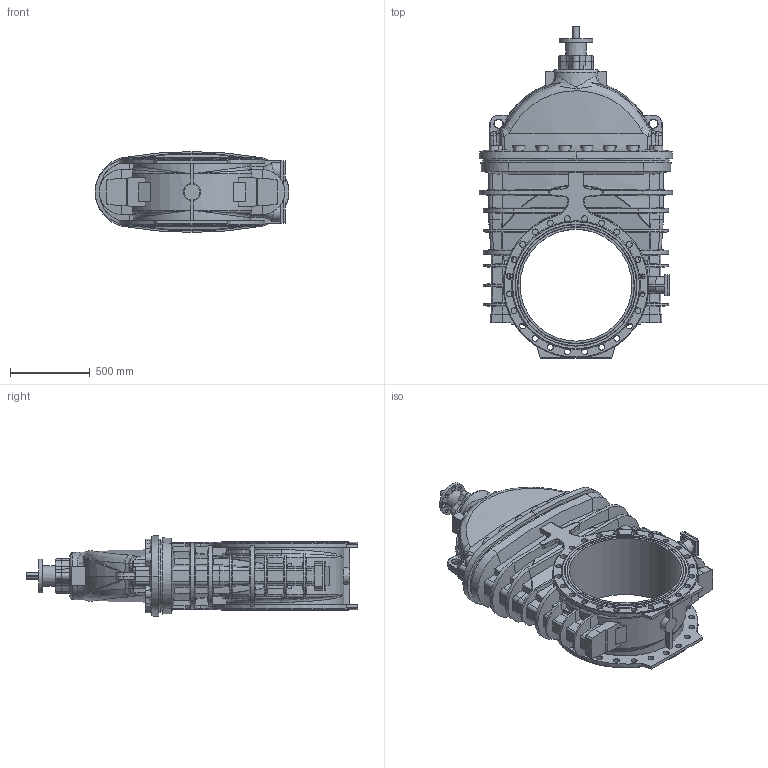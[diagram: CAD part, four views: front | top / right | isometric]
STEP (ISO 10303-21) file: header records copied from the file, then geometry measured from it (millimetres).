
FILE_DESCRIPTION (( 'STEP AP203' ), '1' );
FILE_NAME ('O_06_30_DN700_X1XXX_AA0.step', '2019-11-05T07:54:26', ( 'Windows User' ), ( 'AVK' ), 'SwSTEP 2.0', 'SolidWorks 2012', '' );
FILE_SCHEMA (( 'CONFIG_CONTROL_DESIGN' ));
Length unit declared in the file: millimetre
Products named in the file (1): O_06_30_DN700_X1XXX_AA0
Bounding box: 1212 x 2077 x 506 mm (x, y, z)
Volume: 372278137.5 mm3; surface area: 8011500.5 mm2
Topology: 1 solids, 1 shells, 1085 faces, 3074 edges, 1960 vertices
Faces by surface type: plane 511, cylinder 283, cone 142, bspline 92, torus 53, sphere 4
Full cylindrical faces by diameter (mm): 22 x4, 31 x4, 33 x4, 37 x44, 40 x1, 210 x1, 700 x1
Entity records: 45610 total; most frequent: CARTESIAN_POINT 20020, ORIENTED_EDGE 5868, DIRECTION 4635, EDGE_CURVE 2934, VERTEX_POINT 1900, AXIS2_PLACEMENT_3D 1761, EDGE_LOOP 1252, FACE_OUTER_BOUND 1149
